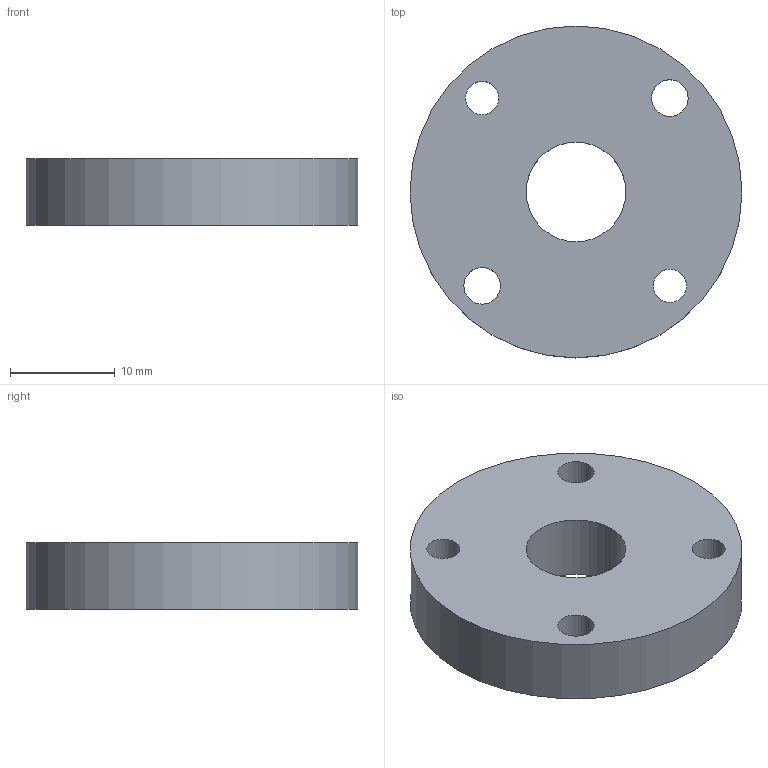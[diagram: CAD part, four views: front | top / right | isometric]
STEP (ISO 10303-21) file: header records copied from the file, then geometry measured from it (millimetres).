
FILE_DESCRIPTION(/* description */ (''),/* implementation_level */ '2;1');
FILE_NAME(/* name */ 'Knee Hub v1.step',/* time_stamp */ '2025-10-21T12:09:39-07:00',/* author */ (''),/* organization */ (''),/* preprocessor_version */ 'ST-DEVELOPER v20.1',/* originating_system */ 'Autodesk Translation Framework v14.17.0.0',/* authorisation */ '');
FILE_SCHEMA (('AUTOMOTIVE_DESIGN { 1 0 10303 214 3 1 1 }'));
Length unit declared in the file: inch
Products named in the file (1): Knee Hub
Bounding box: 31.75 x 31.75 x 6.35 mm (x, y, z)
Volume: 4349.5 mm3; surface area: 2460.9 mm2
Topology: 1 solids, 1 shells, 8 faces, 18 edges, 12 vertices
Faces by surface type: cylinder 6, plane 2
Full cylindrical faces by diameter (mm): 3.2 x2, 3.5 x2, 9.538 x1, 31.75 x1
Entity records: 289 total; most frequent: DIRECTION 48, CARTESIAN_POINT 39, ORIENTED_EDGE 36, AXIS2_PLACEMENT_3D 21, EDGE_LOOP 18, EDGE_CURVE 18, CIRCLE 12, VERTEX_POINT 12
